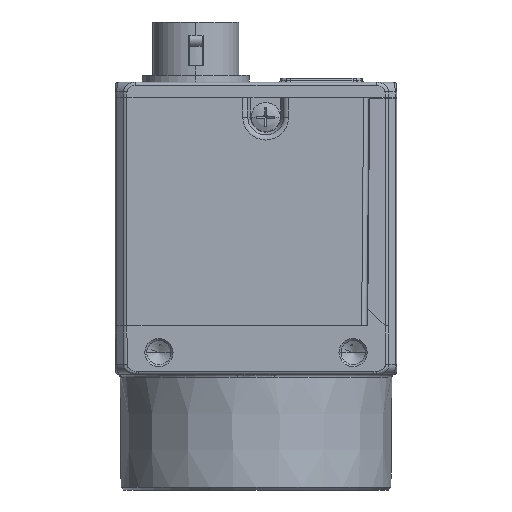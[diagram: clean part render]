
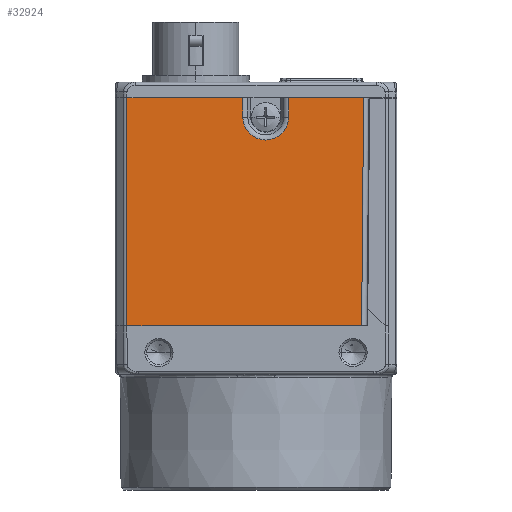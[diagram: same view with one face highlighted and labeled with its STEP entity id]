
A CAD part, left-side view. The second image highlights one B-rep face of the part: STEP entity #32924.
In plain terms, the highlighted planar face has unit normal (-1, 0, 0).
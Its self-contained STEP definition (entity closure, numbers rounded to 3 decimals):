
#1429=DIRECTION('',(0.,-1.,0.));
#1430=VECTOR('',#1429,24.173);
#1431=CARTESIAN_POINT('',(-14.5,13.293,
-0.5));
#1432=LINE('',#1431,#1430);
#2262=DIRECTION('',(0.,-1.,0.));
#2263=VECTOR('',#2262,11.935);
#2264=CARTESIAN_POINT('',(-14.5,13.293,23.));
#2265=LINE('',#2264,#2263);
#2266=CARTESIAN_POINT('',(-14.5,-1.,21.));
#2267=DIRECTION('',(-1.,0.,0.));
#2268=DIRECTION('',(0.,1.,0.));
#2269=AXIS2_PLACEMENT_3D('',#2266,#2267,#2268);
#2271=DIRECTION('',(0.,-1.,0.));
#2272=VECTOR('',#2271,7.727);
#2273=CARTESIAN_POINT('',(-14.5,-3.358,23.));
#2274=LINE('',#2273,#2272);
#2275=DIRECTION('',(0.,0.009,-1.));
#2276=VECTOR('',#2275,23.501);
#2277=CARTESIAN_POINT('',(-14.5,-11.085,
23.));
#2278=LINE('',#2277,#2276);
#2279=DIRECTION('',(0.,0.,1.));
#2280=VECTOR('',#2279,2.);
#2281=CARTESIAN_POINT('',(-14.5,1.358,21.));
#2282=LINE('',#2281,#2280);
#2301=DIRECTION('',(0.,0.,-1.));
#2302=VECTOR('',#2301,2.);
#2303=CARTESIAN_POINT('',(-14.5,-3.358,23.));
#2304=LINE('',#2303,#2302);
#5499=DIRECTION('',(0.,0.,-1.));
#5500=VECTOR('',#5499,23.5);
#5501=CARTESIAN_POINT('',(-14.5,13.293,23.));
#5502=LINE('',#5501,#5500);
#24990=CARTESIAN_POINT('',(-14.5,-11.085,
23.));
#24991=VERTEX_POINT('',#24990);
#24992=CARTESIAN_POINT('',(-14.5,-3.358,23.));
#24993=CARTESIAN_POINT('',(-14.5,1.358,
23.));
#24994=VERTEX_POINT('',#24992);
#24995=VERTEX_POINT('',#24993);
#24996=CARTESIAN_POINT('',(-14.5,13.293,
23.));
#24997=VERTEX_POINT('',#24996);
#24998=CARTESIAN_POINT('',(-14.5,1.358,21.));
#24999=CARTESIAN_POINT('',(-14.5,-3.358,21.));
#25000=VERTEX_POINT('',#24998);
#25001=VERTEX_POINT('',#24999);
#25002=CARTESIAN_POINT('',(-14.5,-10.88,
-0.5));
#25003=VERTEX_POINT('',#25002);
#25004=CARTESIAN_POINT('',(-14.5,13.293,
-0.5));
#25005=VERTEX_POINT('',#25004);
#32904=CARTESIAN_POINT('',(-14.5,1.104,11.25));
#32905=DIRECTION('',(1.,0.,0.));
#32906=DIRECTION('',(0.,-1.,0.));
#32907=AXIS2_PLACEMENT_3D('',#32904,#32905,#32906);
#32908=PLANE('',#32907);
#32909=ORIENTED_EDGE('',*,*,#32885,.T.);
#32911=ORIENTED_EDGE('',*,*,#32910,.F.);
#32913=ORIENTED_EDGE('',*,*,#32912,.T.);
#32915=ORIENTED_EDGE('',*,*,#32914,.F.);
#32916=ORIENTED_EDGE('',*,*,#32897,.T.);
#32918=ORIENTED_EDGE('',*,*,#32917,.T.);
#32919=ORIENTED_EDGE('',*,*,#32245,.F.);
#32921=ORIENTED_EDGE('',*,*,#32920,.F.);
#32922=EDGE_LOOP('',(#32909,#32911,#32913,#32915,#32916,#32918,#32919,#32921));
#32923=FACE_OUTER_BOUND('',#32922,.F.);
#32924=ADVANCED_FACE('',(#32923),#32908,.F.);
#2270=CIRCLE('',#2269,2.358);
#32245=EDGE_CURVE('',#25005,#25003,#1432,.T.);
#32885=EDGE_CURVE('',#24997,#24995,#2265,.T.);
#32897=EDGE_CURVE('',#24994,#24991,#2274,.T.);
#32910=EDGE_CURVE('',#25000,#24995,#2282,.T.);
#32912=EDGE_CURVE('',#25000,#25001,#2270,.T.);
#32914=EDGE_CURVE('',#24994,#25001,#2304,.T.);
#32917=EDGE_CURVE('',#24991,#25003,#2278,.T.);
#32920=EDGE_CURVE('',#24997,#25005,#5502,.T.);
